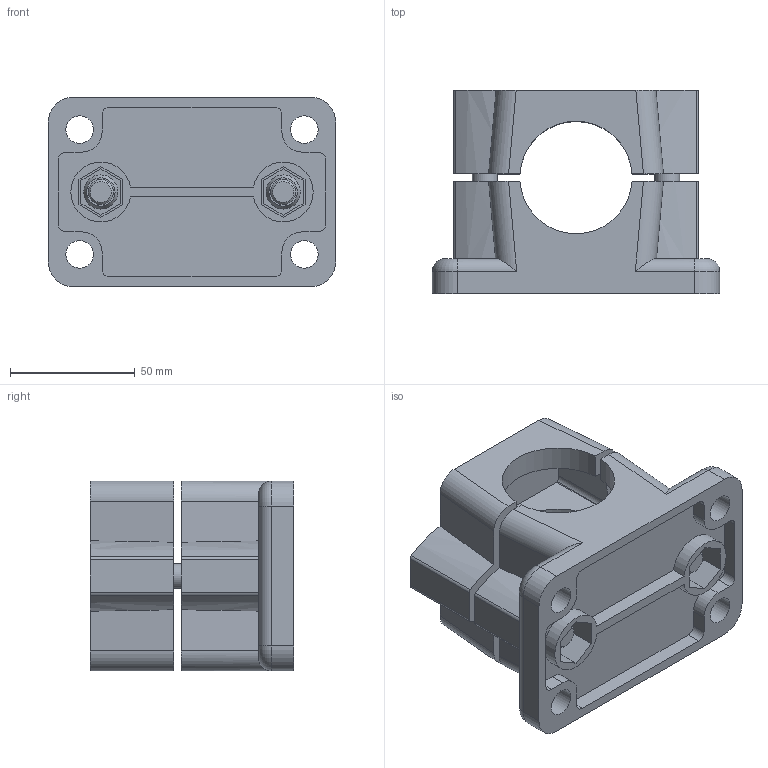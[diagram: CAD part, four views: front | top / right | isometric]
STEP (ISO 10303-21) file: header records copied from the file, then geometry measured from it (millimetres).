
FILE_DESCRIPTION( ( 'STEP AP203' ), '1' );
FILE_NAME( 'C:/Temp/Ganter_Step_05_03_2020/data/3_7/147/Flanged connector clamp GN 147-B45-2-SW.stp', '2020-03-12T14:20:35', ( 'License CC BY-ND 4.0' ), ( 'CADENAS' ), ' ', 'PARTsolutions', ' ' );
FILE_SCHEMA( ( 'CONFIG_CONTROL_DESIGN' ) );
Length unit declared in the file: millimetre
Products named in the file (1): _Flanged connector clamp GN 147-B45-2-SW
Bounding box: 115 x 81.5 x 76 mm (x, y, z)
Volume: 234091.4 mm3; surface area: 80737.3 mm2
Topology: 1 solids, 1 shells, 224 faces, 598 edges, 398 vertices
Faces by surface type: plane 125, cylinder 89, torus 6, cone 4
Full cylindrical faces by diameter (mm): 10 x4, 10.5 x4, 11 x4, 16 x2
Entity records: 6970 total; most frequent: CARTESIAN_POINT 1265, DIRECTION 1208, ORIENTED_EDGE 1136, EDGE_CURVE 568, AXIS2_PLACEMENT_3D 419, VERTEX_POINT 388, LINE 370, VECTOR 370
